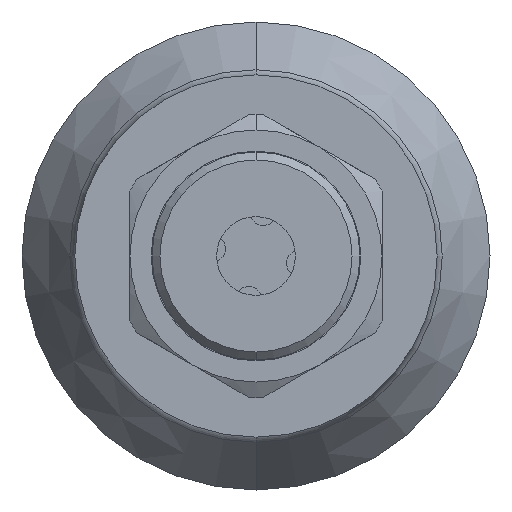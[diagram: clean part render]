
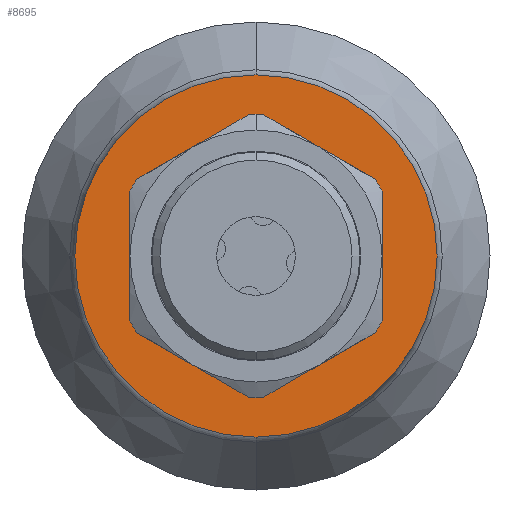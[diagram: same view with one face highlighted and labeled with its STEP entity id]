
A CAD part, front view. The second image highlights one B-rep face of the part: STEP entity #8695.
In plain terms, the highlighted planar face has unit normal (0, -1, 0).
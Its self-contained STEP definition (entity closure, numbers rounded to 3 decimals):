
#67 = DIRECTION ( 'NONE',  ( 0., 0., -1. ) ) ;
#117 = DIRECTION ( 'NONE',  ( 0., -1., 0. ) ) ;
#142 = CARTESIAN_POINT ( 'NONE',  ( 0., 19.8, -9.238 ) ) ;
#319 = CIRCLE ( 'NONE', #12189, 9. ) ;
#340 = CARTESIAN_POINT ( 'NONE',  ( 0., 19.8, 9.238 ) ) ;
#437 = CARTESIAN_POINT ( 'NONE',  ( 0., 19.8, 0. ) ) ;
#531 = ORIENTED_EDGE ( 'NONE', *, *, #12307, .T. ) ;
#759 = DIRECTION ( 'NONE',  ( 0., 0., -1. ) ) ;
#826 = CARTESIAN_POINT ( 'NONE',  ( 0., 19.8, 0. ) ) ;
#832 = CARTESIAN_POINT ( 'NONE',  ( 7.571, 19.8, -4.867 ) ) ;
#922 = VERTEX_POINT ( 'NONE', #832 ) ;
#993 = VERTEX_POINT ( 'NONE', #13137 ) ;
#1058 = VERTEX_POINT ( 'NONE', #9860 ) ;
#1113 = LINE ( 'NONE', #8779, #6640 ) ;
#1265 = EDGE_CURVE ( 'NONE', #2801, #11888, #3200, .T. ) ;
#1492 = CARTESIAN_POINT ( 'NONE',  ( 0.429, 19.8, 8.99 ) ) ;
#1616 = EDGE_CURVE ( 'NONE', #9406, #6475, #10060, .T. ) ;
#1730 = VERTEX_POINT ( 'NONE', #5121 ) ;
#1975 = VECTOR ( 'NONE', #3652, 1000. ) ;
#2170 = EDGE_CURVE ( 'NONE', #8149, #11477, #2635, .T. ) ;
#2635 = CIRCLE ( 'NONE', #12624, 11.5 ) ;
#2684 = ORIENTED_EDGE ( 'NONE', *, *, #7165, .F. ) ;
#2793 = CARTESIAN_POINT ( 'NONE',  ( 0., 19.8, 0. ) ) ;
#2801 = VERTEX_POINT ( 'NONE', #6815 ) ;
#2813 = DIRECTION ( 'NONE',  ( 0., -1., 0. ) ) ;
#2876 = DIRECTION ( 'NONE',  ( 0., -1., 0. ) ) ;
#2879 = ORIENTED_EDGE ( 'NONE', *, *, #9992, .F. ) ;
#2943 = CARTESIAN_POINT ( 'NONE',  ( 0., 19.8, 0. ) ) ;
#2982 = CIRCLE ( 'NONE', #11131, 9. ) ;
#3200 = LINE ( 'NONE', #10948, #6123 ) ;
#3334 = EDGE_LOOP ( 'NONE', ( #531, #6701 ) ) ;
#3652 = DIRECTION ( 'NONE',  ( 0., 0., -1. ) ) ;
#3709 = AXIS2_PLACEMENT_3D ( 'NONE', #9097, #117, #10038 ) ;
#4029 = CARTESIAN_POINT ( 'NONE',  ( 0., 19.8, 0. ) ) ;
#4050 = VERTEX_POINT ( 'NONE', #6101 ) ;
#4181 = DIRECTION ( 'NONE',  ( 0., 0., -1. ) ) ;
#4364 = CARTESIAN_POINT ( 'NONE',  ( 0., 19.8, 11.5 ) ) ;
#4389 = AXIS2_PLACEMENT_3D ( 'NONE', #9229, #6047, #10471 ) ;
#4452 = DIRECTION ( 'NONE',  ( 0.866, 0., -0.5 ) ) ;
#4620 = AXIS2_PLACEMENT_3D ( 'NONE', #11302, #10063, #67 ) ;
#4736 = EDGE_CURVE ( 'NONE', #922, #4050, #5579, .T. ) ;
#4765 = LINE ( 'NONE', #6948, #1975 ) ;
#5121 = CARTESIAN_POINT ( 'NONE',  ( 7.571, 19.8, 4.867 ) ) ;
#5305 = PLANE ( 'NONE',  #7031 ) ;
#5350 = ORIENTED_EDGE ( 'NONE', *, *, #1265, .F. ) ;
#5368 = EDGE_CURVE ( 'NONE', #1058, #9406, #12440, .T. ) ;
#5399 = VERTEX_POINT ( 'NONE', #10915 ) ;
#5449 = CARTESIAN_POINT ( 'NONE',  ( 0.429, 19.8, -8.99 ) ) ;
#5483 = CARTESIAN_POINT ( 'NONE',  ( 0., 19.8, -11.5 ) ) ;
#5579 = CIRCLE ( 'NONE', #4620, 9. ) ;
#5745 = CARTESIAN_POINT ( 'NONE',  ( -7.571, 19.8, 4.867 ) ) ;
#5770 = DIRECTION ( 'NONE',  ( 0., 0., -1. ) ) ;
#6031 = CARTESIAN_POINT ( 'NONE',  ( 8., 19.8, 4.619 ) ) ;
#6047 = DIRECTION ( 'NONE',  ( 0., -1., 0. ) ) ;
#6055 = VERTEX_POINT ( 'NONE', #9890 ) ;
#6072 = CIRCLE ( 'NONE', #3709, 9. ) ;
#6101 = CARTESIAN_POINT ( 'NONE',  ( 8., 19.8, -4.123 ) ) ;
#6123 = VECTOR ( 'NONE', #4452, 1000. ) ;
#6167 = DIRECTION ( 'NONE',  ( 0., -1., 0. ) ) ;
#6206 = EDGE_CURVE ( 'NONE', #5399, #9852, #11371, .T. ) ;
#6475 = VERTEX_POINT ( 'NONE', #13282 ) ;
#6519 = DIRECTION ( 'NONE',  ( 0., 0., 1. ) ) ;
#6640 = VECTOR ( 'NONE', #6519, 1000. ) ;
#6701 = ORIENTED_EDGE ( 'NONE', *, *, #2170, .T. ) ;
#6815 = CARTESIAN_POINT ( 'NONE',  ( -7.571, 19.8, -4.867 ) ) ;
#6948 = CARTESIAN_POINT ( 'NONE',  ( -8., 19.8, 4.619 ) ) ;
#7031 = AXIS2_PLACEMENT_3D ( 'NONE', #2943, #2876, #759 ) ;
#7165 = EDGE_CURVE ( 'NONE', #993, #2801, #6072, .T. ) ;
#7252 = CIRCLE ( 'NONE', #9586, 9. ) ;
#7298 = CARTESIAN_POINT ( 'NONE',  ( 0., 19.8, 0. ) ) ;
#7360 = ORIENTED_EDGE ( 'NONE', *, *, #10813, .F. ) ;
#7403 = CIRCLE ( 'NONE', #8571, 11.5 ) ;
#7538 = FACE_OUTER_BOUND ( 'NONE', #3334, .T. ) ;
#7639 = DIRECTION ( 'NONE',  ( 0., 0., -1. ) ) ;
#7669 = EDGE_CURVE ( 'NONE', #1730, #8637, #10158, .T. ) ;
#7881 = VECTOR ( 'NONE', #12658, 1000. ) ;
#8107 = EDGE_CURVE ( 'NONE', #8637, #1058, #7252, .T. ) ;
#8149 = VERTEX_POINT ( 'NONE', #5483 ) ;
#8168 = VECTOR ( 'NONE', #12706, 1000. ) ;
#8194 = CARTESIAN_POINT ( 'NONE',  ( -0.429, 19.8, -8.99 ) ) ;
#8320 = ORIENTED_EDGE ( 'NONE', *, *, #4736, .F. ) ;
#8386 = DIRECTION ( 'NONE',  ( 0., 0., -1. ) ) ;
#8404 = DIRECTION ( 'NONE',  ( 0., -1., 0. ) ) ;
#8571 = AXIS2_PLACEMENT_3D ( 'NONE', #437, #13693, #10287 ) ;
#8637 = VERTEX_POINT ( 'NONE', #1492 ) ;
#8695 = ADVANCED_FACE ( 'NONE', ( #14096, #7538 ), #5305, .T. ) ;
#8779 = CARTESIAN_POINT ( 'NONE',  ( 8., 19.8, -4.619 ) ) ;
#9062 = DIRECTION ( 'NONE',  ( 0.866, 0., 0.5 ) ) ;
#9097 = CARTESIAN_POINT ( 'NONE',  ( 0., 19.8, 0. ) ) ;
#9229 = CARTESIAN_POINT ( 'NONE',  ( 0., 19.8, 0. ) ) ;
#9246 = ORIENTED_EDGE ( 'NONE', *, *, #6206, .F. ) ;
#9324 = ORIENTED_EDGE ( 'NONE', *, *, #1616, .F. ) ;
#9404 = ORIENTED_EDGE ( 'NONE', *, *, #5368, .F. ) ;
#9406 = VERTEX_POINT ( 'NONE', #5745 ) ;
#9586 = AXIS2_PLACEMENT_3D ( 'NONE', #4029, #8404, #10592 ) ;
#9624 = AXIS2_PLACEMENT_3D ( 'NONE', #10195, #10274, #5770 ) ;
#9852 = VERTEX_POINT ( 'NONE', #5449 ) ;
#9860 = CARTESIAN_POINT ( 'NONE',  ( -0.429, 19.8, 8.99 ) ) ;
#9890 = CARTESIAN_POINT ( 'NONE',  ( 8., 19.8, 4.123 ) ) ;
#9978 = ORIENTED_EDGE ( 'NONE', *, *, #10096, .F. ) ;
#9992 = EDGE_CURVE ( 'NONE', #6475, #993, #4765, .T. ) ;
#10038 = DIRECTION ( 'NONE',  ( 0., 0., -1. ) ) ;
#10060 = CIRCLE ( 'NONE', #9624, 9. ) ;
#10063 = DIRECTION ( 'NONE',  ( 0., -1., 0. ) ) ;
#10096 = EDGE_CURVE ( 'NONE', #6055, #1730, #319, .T. ) ;
#10137 = LINE ( 'NONE', #142, #13904 ) ;
#10158 = LINE ( 'NONE', #6031, #8168 ) ;
#10195 = CARTESIAN_POINT ( 'NONE',  ( 0., 19.8, 0. ) ) ;
#10262 = ORIENTED_EDGE ( 'NONE', *, *, #12379, .F. ) ;
#10274 = DIRECTION ( 'NONE',  ( 0., -1., 0. ) ) ;
#10287 = DIRECTION ( 'NONE',  ( 0., 0., -1. ) ) ;
#10471 = DIRECTION ( 'NONE',  ( 0., 0., -1. ) ) ;
#10592 = DIRECTION ( 'NONE',  ( 0., 0., -1. ) ) ;
#10813 = EDGE_CURVE ( 'NONE', #4050, #6055, #1113, .T. ) ;
#10915 = CARTESIAN_POINT ( 'NONE',  ( 0., 19.8, -9. ) ) ;
#10948 = CARTESIAN_POINT ( 'NONE',  ( -8., 19.8, -4.619 ) ) ;
#11131 = AXIS2_PLACEMENT_3D ( 'NONE', #7298, #11806, #8386 ) ;
#11302 = CARTESIAN_POINT ( 'NONE',  ( 0., 19.8, 0. ) ) ;
#11371 = CIRCLE ( 'NONE', #4389, 9. ) ;
#11477 = VERTEX_POINT ( 'NONE', #4364 ) ;
#11488 = EDGE_LOOP ( 'NONE', ( #12417, #9978, #7360, #8320, #10262, #9246, #12754, #5350, #2684, #2879, #9324, #9404, #11695 ) ) ;
#11695 = ORIENTED_EDGE ( 'NONE', *, *, #8107, .F. ) ;
#11806 = DIRECTION ( 'NONE',  ( 0., -1., 0. ) ) ;
#11888 = VERTEX_POINT ( 'NONE', #8194 ) ;
#12189 = AXIS2_PLACEMENT_3D ( 'NONE', #2793, #6167, #7639 ) ;
#12307 = EDGE_CURVE ( 'NONE', #11477, #8149, #7403, .T. ) ;
#12379 = EDGE_CURVE ( 'NONE', #9852, #922, #10137, .T. ) ;
#12417 = ORIENTED_EDGE ( 'NONE', *, *, #7669, .F. ) ;
#12440 = LINE ( 'NONE', #340, #7881 ) ;
#12624 = AXIS2_PLACEMENT_3D ( 'NONE', #826, #2813, #4181 ) ;
#12658 = DIRECTION ( 'NONE',  ( -0.866, 0., -0.5 ) ) ;
#12675 = EDGE_CURVE ( 'NONE', #11888, #5399, #2982, .T. ) ;
#12706 = DIRECTION ( 'NONE',  ( -0.866, 0., 0.5 ) ) ;
#12754 = ORIENTED_EDGE ( 'NONE', *, *, #12675, .F. ) ;
#13137 = CARTESIAN_POINT ( 'NONE',  ( -8., 19.8, -4.123 ) ) ;
#13282 = CARTESIAN_POINT ( 'NONE',  ( -8., 19.8, 4.123 ) ) ;
#13693 = DIRECTION ( 'NONE',  ( 0., -1., 0. ) ) ;
#13904 = VECTOR ( 'NONE', #9062, 1000. ) ;
#14096 = FACE_BOUND ( 'NONE', #11488, .T. ) ;
